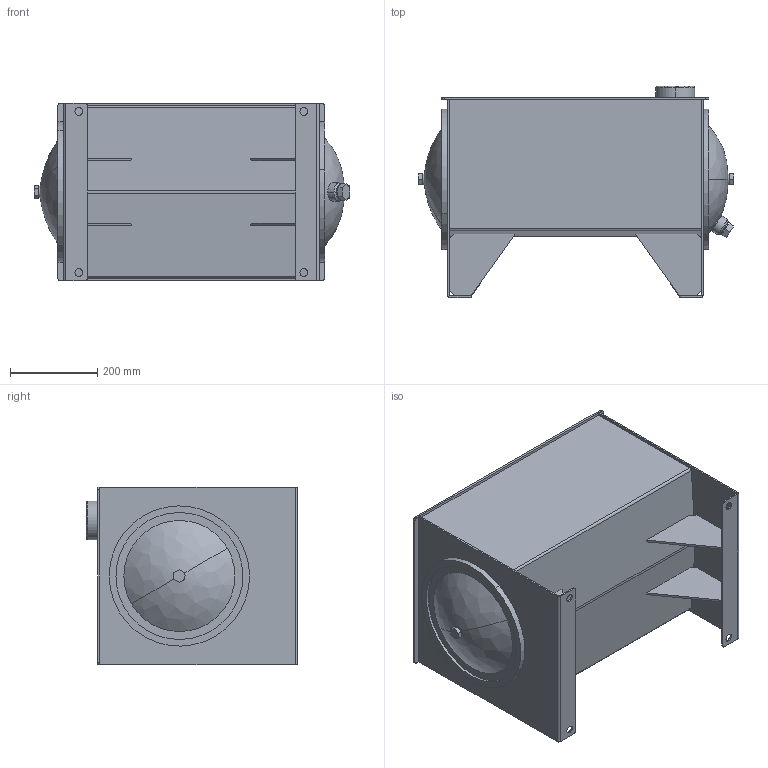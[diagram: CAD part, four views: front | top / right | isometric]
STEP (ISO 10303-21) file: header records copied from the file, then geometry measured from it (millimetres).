
FILE_DESCRIPTION (( 'STEP AP214' ), '1' );
FILE_NAME ('T2-10.STEP', '2022-01-07T13:06:16', ( '' ), ( '' ), 'SwSTEP 2.0', 'SolidWorks 2013', '' );
FILE_SCHEMA (( 'AUTOMOTIVE_DESIGN' ));
Length unit declared in the file: inch
Products named in the file (17): TL-ECD-12; CRUSH WASHER; 12.00 GASKET; FILLER RISER; T2-10-LD; T2-10-BDY; 0.625 - 11 HEX BOLT; T2-10-EB; 12.00 END COVER; T2-10-GST; 0.625 - 11 BAFFLE NUT; T2-10-BFL; T2-10-EA; 12.00 END COVER WITH DRAIN; DRAIN; T2-10; TL-EC-12
Assembly tree (23 placements, depth 3):
  T2-10
    T2-10-LD
    T2-10-EA
    T2-10-EB
    T2-10-BDY
    T2-10-BFL
    T2-10-GST  x4
    FILLER RISER
    TL-ECD-12
      0.625 - 11 HEX BOLT
      0.625 - 11 BAFFLE NUT
      12.00 GASKET
      CRUSH WASHER
      12.00 END COVER WITH DRAIN
      DRAIN
    TL-EC-12
      12.00 END COVER
      12.00 GASKET
      CRUSH WASHER
      0.625 - 11 HEX BOLT
      0.625 - 11 BAFFLE NUT
Bounding box: 721.85 x 482.6 x 406.4 mm (x, y, z)
Volume: 6191109.8 mm3; surface area: 3260973.5 mm2
Topology: 22 solids, 22 shells, 293 faces, 672 edges, 432 vertices
Faces by surface type: plane 166, cylinder 109, bspline 8, cone 8, torus 2
Entity records: 8489 total; most frequent: CARTESIAN_POINT 1438, DIRECTION 1234, ORIENTED_EDGE 1068, EDGE_CURVE 534, AXIS2_PLACEMENT_3D 462, VERTEX_POINT 340, LINE 310, VECTOR 310
